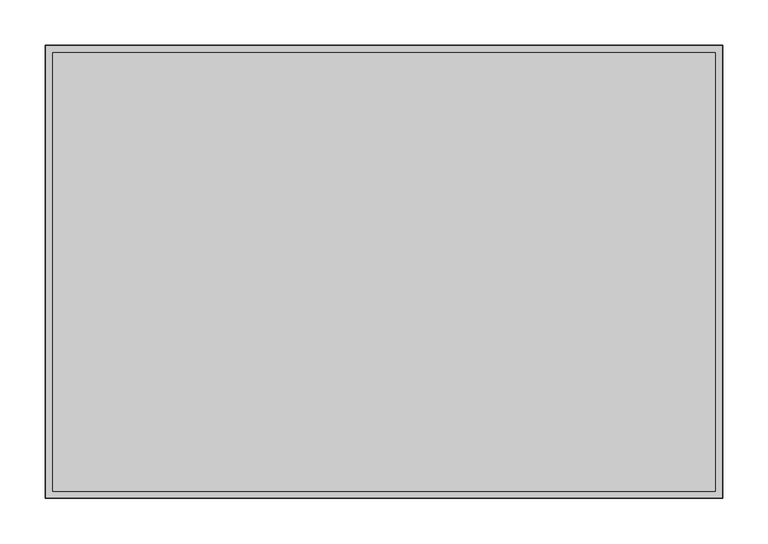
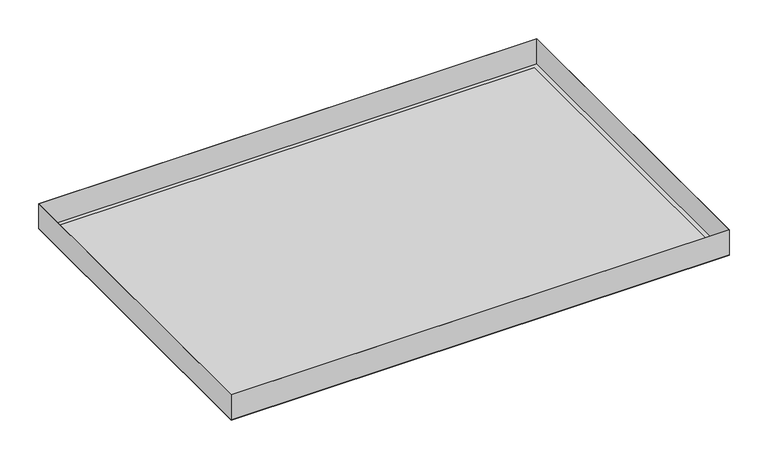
"""IFC4 building model written with IfcOpenShell, lengths in millimetres: proxy geometry, durlum_S-OM-100_panel : durlum_S-OM-100_panel_wall_corner."""

from ifc_helpers import new_model, si_unit, frame, origin, origin_with_axes, place, context, project, spatial, polyline, outline, extrude, source, transform, mapped, element, save


def generic_models_71d81b3c(model_context):
    return source(origin(), model_context, "Body", "SweptSolid", [
        extrude(outline(polyline([(372.5, 249.5), (372.5, -249.5), (-372.5, -249.5), (-372.5, 249.5), (372.5, 249.5)]), holes=[polyline([(371.9, 248.9), (-371.9, 248.9), (-371.9, -248.9), (371.9, -248.9), (371.9, 248.9)])]), frame((0.0, 0.0, 0.6), z_axis=(0.0, 0.0, 1.0), x_axis=(1.0, 0.0, 0.0)), (0.0, 0.0, 1.0), 39.4),
        extrude(outline(polyline([(364.5, 241.5), (364.5, -241.5), (-364.5, -241.5), (-364.5, 241.5), (364.5, 241.5)])), frame((0.0, 0.0, 0.6), z_axis=(0.0, 0.0, 1.0), x_axis=(1.0, 0.0, 0.0)), (0.0, 0.0, 1.0), 0.6),
        extrude(outline(polyline([(372.5, 249.5), (372.5, -249.5), (-372.5, -249.5), (-372.5, 249.5), (372.5, 249.5)]), holes=[polyline([(364.5, 241.5), (-364.5, 241.5), (-364.5, -241.5), (364.5, -241.5), (364.5, 241.5)])]), origin_with_axes(), (0.0, 0.0, 1.0), 0.6),
        extrude(outline(polyline([(364.5, 241.5), (364.5, -241.5), (-364.5, -241.5), (-364.5, 241.5), (364.5, 241.5)])), origin_with_axes(), (0.0, 0.0, 1.0), 0.6),
    ])


if __name__ == "__main__":
    model = new_model("IFC4")
    model_context = context("Model", 3, world=origin())
    ifc_project = project(units=[si_unit("LENGTHUNIT", "METRE", prefix="MILLI")], contexts=[model_context])
    site = spatial("IfcSite", under=ifc_project)
    building = spatial("IfcBuilding", under=site)
    placement = place(None, origin())
    generic_models_shape = generic_models_71d81b3c(model_context)
    element("IfcBuildingElementProxy", 1, Name="durlum_S-OM-100_panel : durlum_S-OM-100_panel_wall_corner", ObjectType="durlum_S-OM-100_panel : durlum_S-OM-100_panel_wall_corner", at=placement, inside=building, context=model_context, shape_type="MappedRepresentation", body=[
        mapped(generic_models_shape, transform((0.0, 0.0, 0.0), x_axis=(1.0, 0.0, 0.0), y_axis=(0.0, 1.0, 0.0), z_axis=(0.0, 0.0, 1.0))),
    ])
    save(model, "model.ifc")
